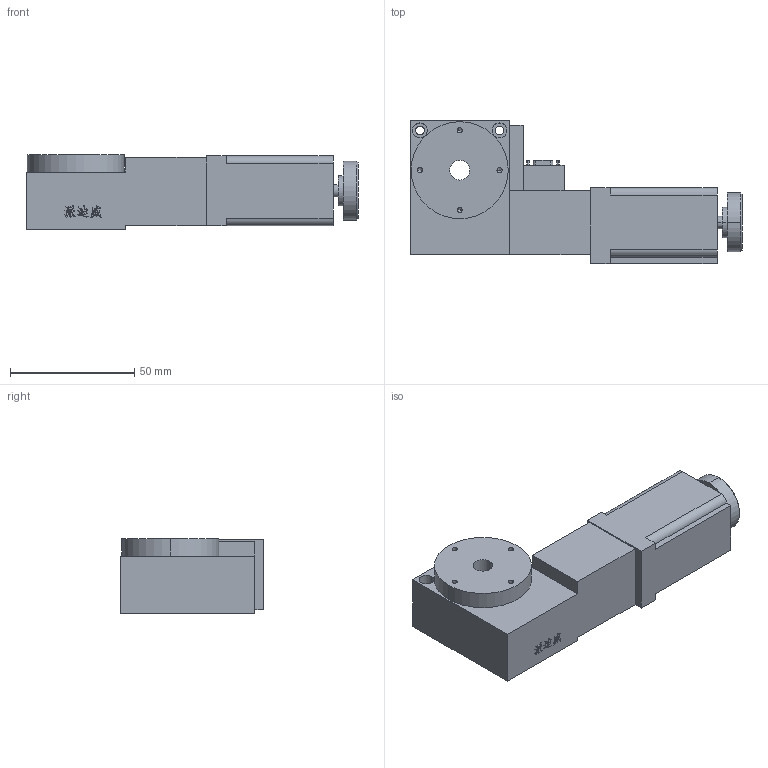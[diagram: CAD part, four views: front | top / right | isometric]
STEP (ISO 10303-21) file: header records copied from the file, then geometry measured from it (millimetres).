
FILE_DESCRIPTION (( 'STEP AP214' ), '1' );
FILE_NAME ('PX110-30.STEP', '2022-09-17T09:43:50', ( '' ), ( '' ), 'SwSTEP 2.0', 'SolidWorks 2017', '' );
FILE_SCHEMA (( 'AUTOMOTIVE_DESIGN' ));
Length unit declared in the file: millimetre
Products named in the file (1): PX110-30
Bounding box: 133.5 x 57.5 x 30 mm (x, y, z)
Volume: 127429 mm3; surface area: 23145.4 mm2
Topology: 1 solids, 1 shells, 289 faces, 763 edges, 496 vertices
Faces by surface type: plane 144, bspline 81, cylinder 48, cone 16
Entity records: 11979 total; most frequent: CARTESIAN_POINT 5248, ORIENTED_EDGE 1498, DIRECTION 1103, EDGE_CURVE 749, VERTEX_POINT 496, LINE 489, VECTOR 489, EDGE_LOOP 329
